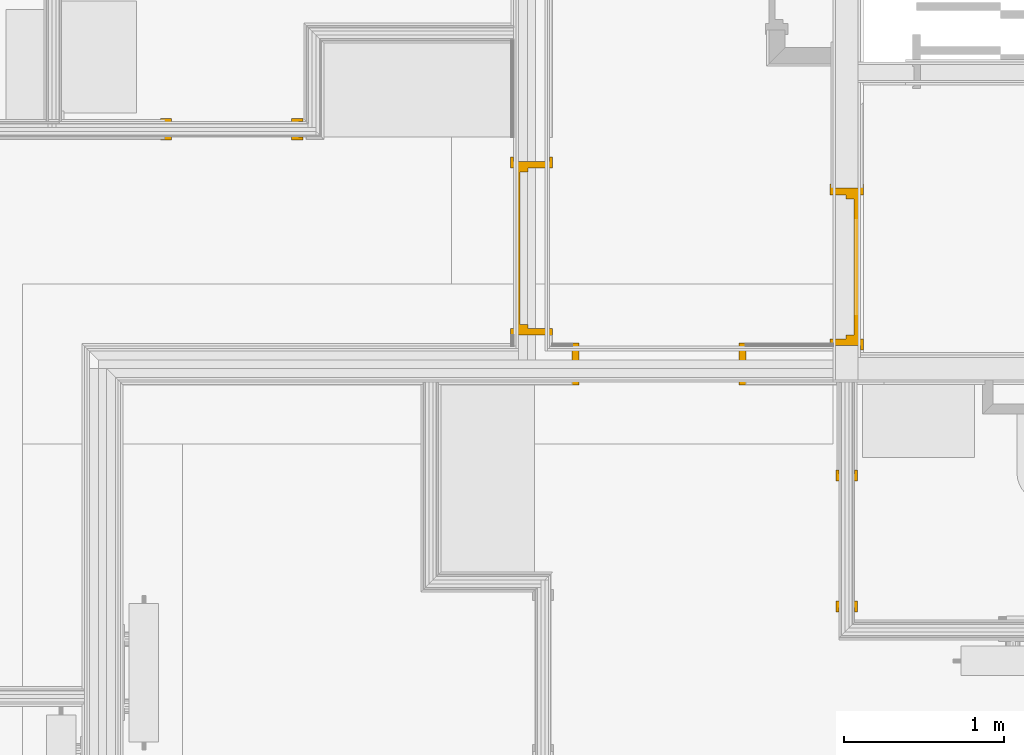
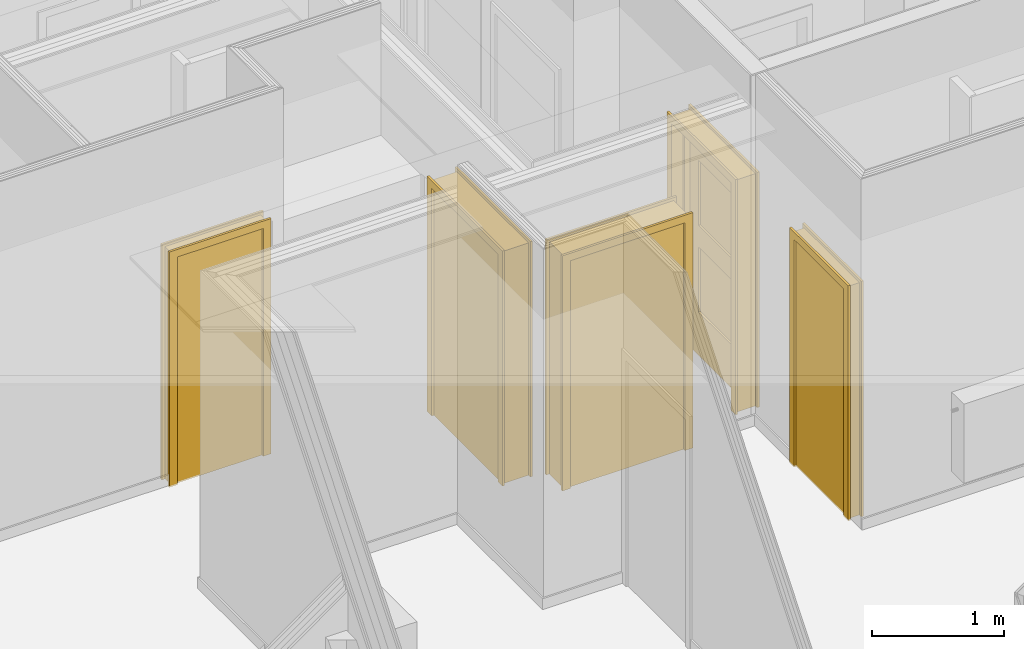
# One storey, part 52 of 64: 5 doors.
"""IFC2X3 building model written with IfcOpenShell, lengths in metres."""

import ifcopenshell
import ifcopenshell.guid

model = None  # the IFC model being written
_history = None  # IfcOwnerHistory: only IFC2X3 demands one
_inside = {}  # id of a spatial element -> (the spatial element, [elements in it])
_under = {}  # id of a project, library or spatial element -> (it, [spatial elements below it])
_declared = {}  # id of a project -> (the project, [libraries it declares])
_typed = {}  # id of a type object -> (the type object, [elements of that type])
_made_of = {}  # id of a material, layer set ... -> (it, [elements and type objects made of it])


def new_model(schema):
    """Start an empty IFC model of exactly this schema.

    Asked for "IFC4X3", IfcOpenShell would pick the latest addendum, in which some entities
    have other attributes; the version numbers below select the first issue.
    IFC2X3 requires an IfcOwnerHistory on every rooted entity: one is made here for all.
    """
    global model, _history
    if schema == "IFC4X3":
        model = ifcopenshell.file(schema_version=(4, 3, 0, 0))
    else:
        model = ifcopenshell.file(schema=schema)
    _inside.clear()
    _under.clear()
    _declared.clear()
    _typed.clear()
    _made_of.clear()
    _history = None
    if model.schema == "IFC2X3":
        org = make("IfcOrganization", Name="unknown")
        user = make(
            "IfcPersonAndOrganization",
            ThePerson=make("IfcPerson", FamilyName="unknown"),
            TheOrganization=org,
        )
        app = make(
            "IfcApplication",
            ApplicationDeveloper=org,
            Version="unknown",
            ApplicationFullName="unknown",
            ApplicationIdentifier="unknown",
        )
        _history = make(
            "IfcOwnerHistory",
            OwningUser=user,
            OwningApplication=app,
            ChangeAction="ADDED",
            CreationDate=0,
        )
    return model


def make(cls, **values):
    """One entity of the class cls with the attributes given. An attribute that is None is left unset."""
    return model.create_entity(
        cls, **{name: value for name, value in values.items() if value is not None}
    )


def entity(cls, *values):
    """Any entity or typed value of the class cls, its attributes in the order of the schema. None: left unset."""
    e = model.create_entity(cls)
    for i, value in enumerate(values):
        if value is not None:
            e[i] = value
    return e


def rooted(cls, **values):
    """An entity with a GlobalId (a new one), such as an element, a storey or a relation."""
    return make(cls, GlobalId=ifcopenshell.guid.new(), OwnerHistory=_history, **values)


def si_unit(unit_type, name, prefix=None):
    """IfcSIUnit, for example si_unit("LENGTHUNIT", "METRE", prefix="MILLI")."""
    return make("IfcSIUnit", UnitType=unit_type, Prefix=prefix, Name=name)


def converted_unit(unit_type, name, factor, base, dimensions=None, offset=None):
    """IfcConversionBasedUnit, such as the inch: factor (a typed value) times the base unit."""
    return make(
        "IfcConversionBasedUnit"
        if offset is None
        else "IfcConversionBasedUnitWithOffset",
        ConversionOffset=offset,
        Dimensions=None
        if dimensions is None
        else entity("IfcDimensionalExponents", *dimensions),
        UnitType=unit_type,
        Name=name,
        ConversionFactor=make(
            "IfcMeasureWithUnit", ValueComponent=factor, UnitComponent=base
        ),
    )


def derived_unit(unit_type, elements):
    """IfcDerivedUnit: a product of units, each with its exponent."""
    return make(
        "IfcDerivedUnit",
        Elements=[
            make("IfcDerivedUnitElement", Unit=unit, Exponent=power)
            for unit, power in elements
        ],
        UnitType=unit_type,
    )


def money_unit(currency):
    """IfcMonetaryUnit."""
    return make("IfcMonetaryUnit", Currency=currency)


def assignment(units):
    """IfcUnitAssignment: the units of a project."""
    return None if units is None else make("IfcUnitAssignment", Units=units)


def point(xyz):
    """IfcCartesianPoint."""
    return None if xyz is None else make("IfcCartesianPoint", Coordinates=xyz)


def direction(xyz):
    """IfcDirection."""
    return None if xyz is None else make("IfcDirection", DirectionRatios=xyz)


def frame(location, z_axis=None, x_axis=None):
    """IfcAxis2Placement3D, a coordinate frame: its origin and axes. An axis left out is left unset."""
    return make(
        "IfcAxis2Placement3D",
        Location=point(location),
        Axis=direction(z_axis),
        RefDirection=direction(x_axis),
    )


def origin_with_axes():
    """The frame at (0, 0, 0) with the z axis (0, 0, 1) and the x axis (1, 0, 0) written out."""
    return frame((0.0, 0.0, 0.0), z_axis=(0.0, 0.0, 1.0), x_axis=(1.0, 0.0, 0.0))


def place(relative_to, where):
    """IfcLocalPlacement: puts the frame where relative to a parent placement (None: the world)."""
    return make(
        "IfcLocalPlacement", PlacementRelTo=relative_to, RelativePlacement=where
    )


def context(
    kind, dimensions, precision=None, world=None, true_north=None, identifier=None
):
    """IfcGeometricRepresentationContext, for example the 3D "Model" context."""
    return make(
        "IfcGeometricRepresentationContext",
        ContextIdentifier=identifier,
        ContextType=kind,
        CoordinateSpaceDimension=dimensions,
        Precision=precision,
        WorldCoordinateSystem=world,
        TrueNorth=true_north,
    )


def subcontext(parent, identifier, kind, view, scale=None):
    """IfcGeometricRepresentationSubContext, for example "Body" below "Model"."""
    return make(
        "IfcGeometricRepresentationSubContext",
        ContextIdentifier=identifier,
        ContextType=kind,
        ParentContext=parent,
        TargetScale=scale,
        TargetView=view,
    )


def project(units=None, contexts=None):
    """IfcProject with its units and contexts."""
    return rooted(
        "IfcProject",
        Name="project",
        RepresentationContexts=contexts,
        UnitsInContext=assignment(units),
    )


def spatial(cls, under=None, at=None, **own):
    """A site, building, storey or space (cls), placed at a placement, below another one or the project."""
    s = rooted(cls, ObjectPlacement=at, **own)
    if under is not None:
        _under.setdefault(under.id(), (under, []))[1].append(s)
    return s


def faces_of(points, faces, orient=None, outer=None):
    """IfcFace entities. A face is a list of loops; a loop is a list of indices into points, from 0.

    orient and outer hold one flag for each loop. By default every Orientation is true, the
    first loop of a face is its IfcFaceOuterBound and the others are IfcFaceBound.
    """
    made = []
    for i, loops in enumerate(faces):
        bounds = []
        for j, loop in enumerate(loops):
            is_outer = j == 0 if outer is None else outer[i][j]
            bounds.append(
                make(
                    "IfcFaceOuterBound" if is_outer else "IfcFaceBound",
                    Bound=make("IfcPolyLoop", Polygon=[points[k] for k in loop]),
                    Orientation=True if orient is None else orient[i][j],
                )
            )
        made.append(make("IfcFace", Bounds=bounds))
    return made


def faceted_brep(points, faces, orient=None, outer=None, voids=None):
    """IfcFacetedBrep: a solid bounded by flat faces; with voids (closed shells), ...WithVoids."""
    shared = [point(p) for p in points]
    hull = make("IfcClosedShell", CfsFaces=faces_of(shared, faces, orient, outer))
    if voids is None:
        return make("IfcFacetedBrep", Outer=hull)
    return make(
        "IfcFacetedBrepWithVoids",
        Outer=hull,
        Voids=[
            make(cls, CfsFaces=faces_of(shared, fs, o, b)) for cls, fs, o, b in voids
        ],
    )


def shape(context_of_items, identifier, shape_type, items):
    """IfcShapeRepresentation: the items that make up one representation, for example the "Body"."""
    return make(
        "IfcShapeRepresentation",
        ContextOfItems=context_of_items,
        RepresentationIdentifier=identifier,
        RepresentationType=shape_type,
        Items=items,
    )


def material(Name=None, Category=None):
    """IfcMaterial."""
    return make("IfcMaterial", Name=Name, Category=Category)


def made_of(thing, what):
    """Note that an element or type object is made of a material, layer set ...; save() writes the relation."""
    if what is not None:
        _made_of.setdefault(what.id(), (what, []))[1].append(thing)
    return thing


def type_object(cls, material=None, **own):
    """A type object (cls), such as IfcWallType, which elements share."""
    return made_of(rooted(cls, **own), material)


def element(
    cls,
    number,
    at=None,
    inside=None,
    cuts=None,
    type_object=None,
    material=None,
    context=None,
    identifier="Body",
    shape_type=None,
    held_by="IfcProductDefinitionShape",
    body=None,
    shapes=None,
    **own,
):
    """One element of the class cls, such as IfcWall. Its Tag is "e" and its number.

    at: its placement. inside: the storey or other place that contains it. cuts: it is an
    opening in that element (IfcRelVoidsElement). A single representation is given by context,
    identifier, shape_type and body (its items); several are given by shapes. held_by: the class
    of the entity that holds the representations. save() writes the other relations.
    """
    e = rooted(cls, Tag="e%d" % number, ObjectPlacement=at, **own)
    if body is not None:
        shapes = [shape(context, identifier, shape_type, body)]
    if shapes is not None:
        e.Representation = make(held_by, Representations=shapes)
    if inside is not None:
        _inside.setdefault(inside.id(), (inside, []))[1].append(e)
    if cuts is not None:
        rooted(
            "IfcRelVoidsElement", RelatingBuildingElement=cuts, RelatedOpeningElement=e
        )
    if type_object is not None:
        _typed.setdefault(type_object.id(), (type_object, []))[1].append(e)
    return made_of(e, material)


def aggregate(whole, parts):
    """IfcRelAggregates: a whole, such as a stair, and the parts it consists of."""
    return rooted("IfcRelAggregates", RelatingObject=whole, RelatedObjects=parts)


def save(model, path):
    """Write the relations noted so far, then the file.

    IfcRelAggregates (storeys below a building ...), IfcRelContainedInSpatialStructure (elements
    in a storey), IfcRelDefinesByType, IfcRelAssociatesMaterial and IfcRelDeclares: one each for
    every whole, place, type object, material and project.
    """
    for whole, parts in _under.values():
        aggregate(whole, parts)
    for where, things in _inside.values():
        rooted(
            "IfcRelContainedInSpatialStructure",
            RelatedElements=things,
            RelatingStructure=where,
        )
    for kind, things in _typed.values():
        rooted("IfcRelDefinesByType", RelatedObjects=things, RelatingType=kind)
    for what, things in _made_of.values():
        rooted("IfcRelAssociatesMaterial", RelatedObjects=things, RelatingMaterial=what)
    for by, libraries in _declared.values():
        rooted("IfcRelDeclares", RelatingContext=by, RelatedDefinitions=libraries)
    model.write(path)


model = new_model("IFC2X3")

# Units and contexts
model_context = context("Model", 3, precision=1e-05, world=origin_with_axes(), true_north=direction((0.0, 1.0)))
body_context = subcontext(model_context, "Body", "Model", "MODEL_VIEW", scale=1.0)
ifc_project = project(units=[si_unit("LENGTHUNIT", "METRE"), si_unit("AREAUNIT", "SQUARE_METRE"), si_unit("VOLUMEUNIT", "CUBIC_METRE"), si_unit("ABSORBEDDOSEUNIT", "GRAY"), si_unit("AMOUNTOFSUBSTANCEUNIT", "MOLE"), si_unit("DOSEEQUIVALENTUNIT", "SIEVERT"), si_unit("ELECTRICCAPACITANCEUNIT", "FARAD"), si_unit("ELECTRICCHARGEUNIT", "COULOMB"), si_unit("ELECTRICCONDUCTANCEUNIT", "SIEMENS"), si_unit("ELECTRICCURRENTUNIT", "AMPERE"), si_unit("ELECTRICRESISTANCEUNIT", "OHM"), si_unit("ELECTRICVOLTAGEUNIT", "VOLT"), si_unit("ENERGYUNIT", "JOULE"), si_unit("FORCEUNIT", "NEWTON"), si_unit("FREQUENCYUNIT", "HERTZ"), si_unit("ILLUMINANCEUNIT", "LUX"), si_unit("INDUCTANCEUNIT", "HENRY"), si_unit("LUMINOUSFLUXUNIT", "LUMEN"), si_unit("LUMINOUSINTENSITYUNIT", "CANDELA"), si_unit("MAGNETICFLUXDENSITYUNIT", "TESLA"), si_unit("MAGNETICFLUXUNIT", "WEBER"), si_unit("MASSUNIT", "GRAM"), converted_unit("PLANEANGLEUNIT", "degree", entity("IfcReal", 0.0174532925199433), si_unit("PLANEANGLEUNIT", "RADIAN"), dimensions=[0, 0, 0, 0, 0, 0, 0]), si_unit("POWERUNIT", "WATT"), si_unit("PRESSUREUNIT", "PASCAL"), si_unit("RADIOACTIVITYUNIT", "BECQUEREL"), si_unit("SOLIDANGLEUNIT", "STERADIAN"), si_unit("THERMODYNAMICTEMPERATUREUNIT", "KELVIN"), si_unit("TIMEUNIT", "SECOND"), derived_unit("ACCELERATIONUNIT", [(si_unit("LENGTHUNIT", "METRE"), 1), (si_unit("TIMEUNIT", "SECOND"), -2)]), derived_unit("ANGULARVELOCITYUNIT", [(converted_unit("PLANEANGLEUNIT", "degree", entity("IfcReal", 0.0174532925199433), si_unit("PLANEANGLEUNIT", "RADIAN"), dimensions=[0, 0, 0, 0, 0, 0, 0]), 1), (si_unit("TIMEUNIT", "SECOND"), -1)]), derived_unit("CURVATUREUNIT", [(converted_unit("PLANEANGLEUNIT", "degree", entity("IfcReal", 0.0174532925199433), si_unit("PLANEANGLEUNIT", "RADIAN"), dimensions=[0, 0, 0, 0, 0, 0, 0]), 1), (si_unit("LENGTHUNIT", "METRE"), -1)]), derived_unit("DYNAMICVISCOSITYUNIT", [(si_unit("PRESSUREUNIT", "PASCAL"), 1), (si_unit("TIMEUNIT", "SECOND"), 1)]), derived_unit("HEATFLUXDENSITYUNIT", [(si_unit("POWERUNIT", "WATT"), 1), (si_unit("LENGTHUNIT", "METRE"), -2)]), derived_unit("HEATINGVALUEUNIT", [(si_unit("ENERGYUNIT", "JOULE"), 1), (si_unit("MASSUNIT", "GRAM"), -1)]), derived_unit("INTEGERCOUNTRATEUNIT", [(si_unit("TIMEUNIT", "SECOND"), -1)]), derived_unit("IONCONCENTRATIONUNIT", [(si_unit("MASSUNIT", "GRAM"), 1), (si_unit("VOLUMEUNIT", "CUBIC_METRE"), -1)]), derived_unit("ISOTHERMALMOISTURECAPACITYUNIT", [(si_unit("VOLUMEUNIT", "CUBIC_METRE"), 1), (si_unit("MASSUNIT", "GRAM"), -1)]), derived_unit("KINEMATICVISCOSITYUNIT", [(si_unit("AREAUNIT", "SQUARE_METRE"), 1), (si_unit("TIMEUNIT", "SECOND"), -1)]), derived_unit("LINEARFORCEUNIT", [(si_unit("FORCEUNIT", "NEWTON"), 1), (si_unit("LENGTHUNIT", "METRE"), -1)]), derived_unit("LINEARMOMENTUNIT", [(si_unit("FORCEUNIT", "NEWTON"), 1), (si_unit("LENGTHUNIT", "METRE"), -1)]), derived_unit("LINEARSTIFFNESSUNIT", [(si_unit("FORCEUNIT", "NEWTON"), 1), (si_unit("LENGTHUNIT", "METRE"), -1)]), derived_unit("LINEARVELOCITYUNIT", [(si_unit("LENGTHUNIT", "METRE"), 1), (si_unit("TIMEUNIT", "SECOND"), -1)]), derived_unit("LUMINOUSINTENSITYDISTRIBUTIONUNIT", [(si_unit("LUMINOUSINTENSITYUNIT", "CANDELA"), 1), (si_unit("LUMINOUSFLUXUNIT", "LUMEN"), -1)]), derived_unit("MASSDENSITYUNIT", [(si_unit("MASSUNIT", "GRAM"), 1), (si_unit("VOLUMEUNIT", "CUBIC_METRE"), -1)]), derived_unit("MASSFLOWRATEUNIT", [(si_unit("MASSUNIT", "GRAM"), 1), (si_unit("TIMEUNIT", "SECOND"), -1)]), derived_unit("MASSPERLENGTHUNIT", [(si_unit("MASSUNIT", "GRAM"), 1), (si_unit("LENGTHUNIT", "METRE"), -1)]), derived_unit("MODULUSOFELASTICITYUNIT", [(si_unit("FORCEUNIT", "NEWTON"), 1), (si_unit("AREAUNIT", "SQUARE_METRE"), -1)]), derived_unit("MODULUSOFLINEARSUBGRADEREACTIONUNIT", [(si_unit("FORCEUNIT", "NEWTON"), 1), (si_unit("LENGTHUNIT", "METRE"), -2)]), derived_unit("MODULUSOFROTATIONALSUBGRADEREACTIONUNIT", [(si_unit("FORCEUNIT", "NEWTON"), 1), (si_unit("LENGTHUNIT", "METRE"), 1)]), derived_unit("MODULUSOFSUBGRADEREACTIONUNIT", [(si_unit("FORCEUNIT", "NEWTON"), 1), (si_unit("VOLUMEUNIT", "CUBIC_METRE"), -1)]), derived_unit("MOISTUREDIFFUSIVITYUNIT", [(si_unit("VOLUMEUNIT", "CUBIC_METRE"), 1), (si_unit("TIMEUNIT", "SECOND"), -1)]), derived_unit("MOLECULARWEIGHTUNIT", [(si_unit("MASSUNIT", "GRAM"), 1), (si_unit("AMOUNTOFSUBSTANCEUNIT", "MOLE"), -1)]), derived_unit("PLANARFORCEUNIT", [(si_unit("FORCEUNIT", "NEWTON"), 1), (si_unit("LENGTHUNIT", "METRE"), -2)]), derived_unit("ROTATIONALFREQUENCYUNIT", [(si_unit("TIMEUNIT", "SECOND"), -1)]), derived_unit("ROTATIONALMASSUNIT", [(si_unit("MASSUNIT", "GRAM"), 1), (si_unit("LENGTHUNIT", "METRE"), 2)]), derived_unit("ROTATIONALSTIFFNESSUNIT", [(si_unit("FORCEUNIT", "NEWTON"), 1), (si_unit("LENGTHUNIT", "METRE"), 1), (converted_unit("PLANEANGLEUNIT", "degree", entity("IfcReal", 0.0174532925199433), si_unit("PLANEANGLEUNIT", "RADIAN"), dimensions=[0, 0, 0, 0, 0, 0, 0]), -1)]), derived_unit("SECTIONAREAINTEGRALUNIT", [(si_unit("LENGTHUNIT", "METRE"), 5)]), derived_unit("SECTIONMODULUSUNIT", [(si_unit("LENGTHUNIT", "METRE"), 3)]), derived_unit("SHEARMODULUSUNIT", [(si_unit("FORCEUNIT", "NEWTON"), 1), (si_unit("AREAUNIT", "SQUARE_METRE"), -1)]), derived_unit("SOUNDPOWERUNIT", [(si_unit("ENERGYUNIT", "JOULE"), 1), (si_unit("TIMEUNIT", "SECOND"), -1)]), derived_unit("SPECIFICHEATCAPACITYUNIT", [(si_unit("FORCEUNIT", "NEWTON"), 1), (si_unit("MASSUNIT", "GRAM"), -1), (si_unit("THERMODYNAMICTEMPERATUREUNIT", "KELVIN"), -1)]), derived_unit("TEMPERATUREGRADIENTUNIT", [(si_unit("THERMODYNAMICTEMPERATUREUNIT", "KELVIN"), 1), (si_unit("LENGTHUNIT", "METRE"), -1)]), derived_unit("THERMALADMITTANCEUNIT", [(si_unit("POWERUNIT", "WATT"), 1), (si_unit("AREAUNIT", "SQUARE_METRE"), -1), (si_unit("THERMODYNAMICTEMPERATUREUNIT", "KELVIN"), -1)]), derived_unit("THERMALCONDUCTANCEUNIT", [(si_unit("POWERUNIT", "WATT"), 1), (si_unit("LENGTHUNIT", "METRE"), -1), (si_unit("THERMODYNAMICTEMPERATUREUNIT", "KELVIN"), -1)]), derived_unit("THERMALEXPANSIONCOEFFICIENTUNIT", [(si_unit("THERMODYNAMICTEMPERATUREUNIT", "KELVIN"), -1)]), derived_unit("THERMALRESISTANCEUNIT", [(si_unit("AREAUNIT", "SQUARE_METRE"), 1), (si_unit("POWERUNIT", "WATT"), -1)]), derived_unit("THERMALTRANSMITTANCEUNIT", [(si_unit("POWERUNIT", "WATT"), 1), (si_unit("AREAUNIT", "SQUARE_METRE"), -1), (si_unit("THERMODYNAMICTEMPERATUREUNIT", "KELVIN"), -1)]), derived_unit("TORQUEUNIT", [(si_unit("FORCEUNIT", "NEWTON"), 1), (si_unit("LENGTHUNIT", "METRE"), 1)]), derived_unit("VAPORPERMEABILITYUNIT", [(si_unit("MASSUNIT", "GRAM"), 1), (si_unit("TIMEUNIT", "SECOND"), -1)]), derived_unit("VOLUMETRICFLOWRATEUNIT", [(si_unit("VOLUMEUNIT", "CUBIC_METRE"), 1), (si_unit("TIMEUNIT", "SECOND"), -1)]), derived_unit("WARPINGCONSTANTUNIT", [(si_unit("LENGTHUNIT", "METRE"), 6)]), derived_unit("WARPINGMOMENTUNIT", [(si_unit("FORCEUNIT", "NEWTON"), 1), (si_unit("LENGTHUNIT", "METRE"), 2)]), money_unit("GBP")], contexts=[model_context])

# Site, building, storey, space
site_placement = place(None, origin_with_axes())
site = spatial("IfcSite", under=ifc_project, at=site_placement, Name="Site", CompositionType="ELEMENT")
building_placement = place(site_placement, origin_with_axes())
building = spatial("IfcBuilding", under=site, at=building_placement, Name="Building01", CompositionType="ELEMENT")
storey_placement = place(building_placement, frame((0.0, 0.0, 8.64), z_axis=(0.0, 0.0, 1.0), x_axis=(1.0, 0.0, 0.0)))
storey = spatial("IfcBuildingStorey", under=building, at=storey_placement, Name="2F", CompositionType="ELEMENT", Elevation=8.64)
space_1_placement = place(storey_placement, frame((6.595, 4.98, 0.017975), z_axis=(0.0, 0.0, 1.0), x_axis=(0.0, -1.0, 0.0)))
space_1 = spatial("IfcSpace", under=storey, at=space_1_placement, Name="k/d/l", CompositionType="ELEMENT", InteriorOrExteriorSpace="NOTDEFINED")

# Door
ifc_material = material(Name="A_BSUK_Doors")
door_style_1 = type_object("IfcDoorStyle", Name="A-Doors-SingleFlush", ConstructionType="USERDEFINED", OperationType="SINGLE_SWING_RIGHT", ParameterTakesPrecedence=False, Sizeable=False)
door_1_placement = place(storey_placement, frame((8.4725, 4.98, 0.004), z_axis=(0.0, 0.0, 1.0), x_axis=(-1.0, 0.0, 0.0)))
element("IfcDoor", 1, at=door_1_placement, inside=space_1, type_object=door_style_1, material=ifc_material, Name="2.27", ObjectType="A-Doors-SingleFlush", OverallHeight=2.16900000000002, OverallWidth=1.13800000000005, context=body_context, shape_type="Brep", body=[
    faceted_brep([(1.0, -0.244, 0.0), (1.069, -0.244, 0.0), (1.069, -0.244, 2.169), (-0.069, -0.244, 2.169), (-0.069, -0.244, 0.0), (0.0, -0.244, 0.0), (0.0, -0.244, 2.1), (1.0, -0.244, 2.1), (-0.069, -0.225, 0.0), (-0.069, -0.225, 2.169), (1.069, -0.225, 2.169), (1.069, -0.225, 0.0), (1.0, 0.019, 0.0), (1.069, 0.019, 0.0), (1.069, 0.0, 0.0), (1.042, 0.0, 0.0), (1.042, -0.225, 0.0), (1.0, 0.019, 2.1), (0.0, 0.019, 2.1), (0.0, 0.019, 0.0), (-0.069, 0.019, 0.0), (-0.069, 0.019, 2.169), (1.069, 0.019, 2.169), (1.069, 0.0, 2.169), (1.042, -0.225, 2.142), (1.042, 0.0, 2.142), (-0.042, -0.225, 2.142), (-0.042, 0.0, 2.142), (-0.042, -0.225, 0.0), (-0.042, 0.0, 0.0), (-0.069, 0.0, 2.169), (-0.069, 0.0, 0.0)], [[[0, 1, 2, 3, 4, 5, 6, 7]], [[8, 4, 3, 9]], [[10, 2, 1, 11]], [[9, 3, 2, 10]], [[12, 13, 14, 15, 16, 11, 1, 0]], [[7, 17, 12, 0]], [[6, 18, 17, 7]], [[18, 19, 20, 21, 22, 13, 12, 17]], [[5, 19, 18, 6]], [[13, 22, 23, 14]], [[24, 16, 15, 25]], [[26, 24, 25, 27]], [[11, 16, 24, 26, 28, 8, 9, 10]], [[27, 29, 28, 26]], [[25, 15, 14, 23, 30, 31, 29, 27]], [[5, 4, 8, 28, 29, 31, 20, 19]], [[30, 21, 20, 31]], [[23, 22, 21, 30]]]),
    faceted_brep([(0.0, -0.09, 2.1), (0.0, -0.04, 2.1), (0.0, -0.04, 0.0), (0.0, -0.09, 0.0), (0.975, -0.09, 0.0), (1.0, -0.09, 0.0), (1.0, -0.09, 2.1), (0.025, -0.09, 0.0), (0.025, -0.09, 2.075), (0.975, -0.09, 2.075), (0.975, -0.04, 0.0), (1.0, -0.04, 0.0), (1.0, -0.04, 2.1), (0.025, -0.04, 2.075), (0.025, -0.04, 0.0), (0.975, -0.04, 2.075)], [[[0, 1, 2, 3]], [[4, 5, 6, 0, 3, 7, 8, 9]], [[10, 11, 5, 4]], [[6, 12, 1, 0]], [[5, 11, 12, 6]], [[13, 14, 2, 1, 12, 11, 10, 15]], [[7, 14, 13, 8]], [[7, 3, 2, 14]], [[9, 15, 10, 4]], [[8, 13, 15, 9]]]),
    faceted_brep([(1.0, -0.04, 0.0), (1.0, 0.0, 0.0), (1.0, 0.0, 2.1), (1.0, -0.04, 2.1), (0.0, -0.04, 2.1), (0.0, 0.0, 2.1), (0.0, 0.0, 0.0), (0.0, -0.04, 0.0)], [[[0, 1, 2, 3]], [[4, 5, 6, 7]], [[7, 6, 1, 0]], [[3, 4, 7, 0]], [[3, 2, 5, 4]], [[1, 6, 5, 2]]]),
])

# Space
space_2_placement = place(storey_placement, frame((0.318, 8.21067, 0.017975), z_axis=(0.0, 0.0, 1.0), x_axis=(0.0, -1.0, 0.0)))
space_2 = spatial("IfcSpace", under=storey, at=space_2_placement, Name="13", CompositionType="ELEMENT", InteriorOrExteriorSpace="NOTDEFINED")

# Doors
door_style_2 = type_object("IfcDoorStyle", Name="A-Doors-SingleFlush", ConstructionType="USERDEFINED", OperationType="SINGLE_SWING_LEFT", ParameterTakesPrecedence=False, Sizeable=False)
door_2_placement = place(storey_placement, frame((7.064669, 5.316475, 0.0), z_axis=(0.0, 0.0, 1.0), x_axis=(0.0, 1.0, 0.0)))
element("IfcDoor", 2, at=door_2_placement, inside=space_2, type_object=door_style_2, material=ifc_material, Name="2.17", ObjectType="A-Doors-SingleFlush", OverallHeight=2.16900000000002, OverallWidth=1.13800000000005, context=body_context, shape_type="Brep", body=[
    faceted_brep([(0.0, -0.244, 2.1), (1.0, -0.244, 2.1), (1.0, -0.244, 0.0), (1.069, -0.244, 0.0), (1.069, -0.244, 2.169), (-0.069, -0.244, 2.169), (-0.069, -0.244, 0.0), (0.0, -0.244, 0.0), (1.069, -0.225, 2.169), (1.069, -0.225, 0.0), (-0.069, -0.225, 0.0), (-0.069, -0.225, 2.169), (-0.042, -0.225, 0.0), (-0.042, 0.0, 0.0), (-0.069, 0.0, 0.0), (-0.069, 0.019, 0.0), (0.0, 0.019, 0.0), (0.0, 0.019, 2.1), (1.0, 0.019, 2.1), (-0.069, 0.019, 2.169), (1.069, 0.019, 2.169), (1.069, 0.019, 0.0), (1.0, 0.019, 0.0), (-0.069, 0.0, 2.169), (-0.042, 0.0, 2.142), (-0.042, -0.225, 2.142), (1.042, 0.0, 2.142), (1.042, -0.225, 2.142), (1.042, -0.225, 0.0), (1.042, 0.0, 0.0), (1.069, 0.0, 0.0), (1.069, 0.0, 2.169)], [[[0, 1, 2, 3, 4, 5, 6, 7]], [[8, 4, 3, 9]], [[10, 6, 5, 11]], [[11, 5, 4, 8]], [[7, 6, 10, 12, 13, 14, 15, 16]], [[7, 16, 17, 0]], [[0, 17, 18, 1]], [[17, 16, 15, 19, 20, 21, 22, 18]], [[1, 18, 22, 2]], [[14, 23, 19, 15]], [[24, 13, 12, 25]], [[26, 24, 25, 27]], [[11, 8, 9, 28, 27, 25, 12, 10]], [[27, 28, 29, 26]], [[26, 29, 30, 31, 23, 14, 13, 24]], [[22, 21, 30, 29, 28, 9, 3, 2]], [[30, 21, 20, 31]], [[31, 20, 19, 23]]]),
    faceted_brep([(1.0, -0.09, 0.0), (1.0, -0.04, 0.0), (1.0, -0.04, 2.1), (1.0, -0.09, 2.1), (0.025, -0.09, 2.075), (0.975, -0.09, 2.075), (0.975, -0.09, 0.0), (0.0, -0.09, 2.1), (0.0, -0.09, 0.0), (0.025, -0.09, 0.0), (0.0, -0.04, 0.0), (0.025, -0.04, 0.0), (0.0, -0.04, 2.1), (0.025, -0.04, 2.075), (0.975, -0.04, 0.0), (0.975, -0.04, 2.075)], [[[0, 1, 2, 3]], [[4, 5, 6, 0, 3, 7, 8, 9]], [[9, 8, 10, 11]], [[3, 2, 12, 7]], [[7, 12, 10, 8]], [[13, 11, 10, 12, 2, 1, 14, 15]], [[5, 15, 14, 6]], [[14, 1, 0, 6]], [[9, 11, 13, 4]], [[4, 13, 15, 5]]]),
    faceted_brep([(0.0, -0.04, 2.1), (0.0, 0.0, 2.1), (0.0, 0.0, 0.0), (0.0, -0.04, 0.0), (1.0, -0.04, 0.0), (1.0, 0.0, 0.0), (1.0, 0.0, 2.1), (1.0, -0.04, 2.1)], [[[0, 1, 2, 3]], [[4, 5, 6, 7]], [[3, 2, 5, 4]], [[3, 4, 7, 0]], [[7, 6, 1, 0]], [[1, 6, 5, 2]]]),
])
door_style_3 = type_object("IfcDoorStyle", Name="A-Doors-SingleFlush", ConstructionType="USERDEFINED", OperationType="SINGLE_SWING_LEFT", ParameterTakesPrecedence=False, Sizeable=False)
door_3_placement = place(storey_placement, frame((5.679088, 6.511475, 0.0), z_axis=(0.0, 0.0, 1.0), x_axis=(-1.0, 0.0, 0.0)))
element("IfcDoor", 3, at=door_3_placement, inside=space_2, type_object=door_style_3, material=ifc_material, Name="2.18", ObjectType="A-Doors-SingleFlush", OverallHeight=2.16900000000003, OverallWidth=0.888000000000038, context=body_context, shape_type="Brep", body=[
    faceted_brep([(0.0, -0.114, 2.1), (0.75, -0.114, 2.1), (0.75, -0.114, 0.0), (0.819, -0.114, 0.0), (0.819, -0.114, 2.169), (-0.069, -0.114, 2.169), (-0.069, -0.114, 0.0), (0.0, -0.114, 0.0), (0.819, -0.095, 2.169), (0.819, -0.095, 0.0), (-0.069, -0.095, 0.0), (-0.069, -0.095, 2.169), (-0.042, -0.095, 0.0), (-0.042, 0.0, 0.0), (-0.069, 0.0, 0.0), (-0.069, 0.019, 0.0), (0.0, 0.019, 0.0), (0.0, 0.019, 2.1), (0.75, 0.019, 2.1), (-0.069, 0.019, 2.169), (0.819, 0.019, 2.169), (0.819, 0.019, 0.0), (0.75, 0.019, 0.0), (-0.069, 0.0, 2.169), (-0.042, 0.0, 2.142), (-0.042, -0.095, 2.142), (0.792, 0.0, 2.142), (0.792, -0.095, 2.142), (0.792, -0.095, 0.0), (0.792, 0.0, 0.0), (0.819, 0.0, 0.0), (0.819, 0.0, 2.169)], [[[0, 1, 2, 3, 4, 5, 6, 7]], [[8, 4, 3, 9]], [[10, 6, 5, 11]], [[11, 5, 4, 8]], [[7, 6, 10, 12, 13, 14, 15, 16]], [[7, 16, 17, 0]], [[0, 17, 18, 1]], [[17, 16, 15, 19, 20, 21, 22, 18]], [[1, 18, 22, 2]], [[14, 23, 19, 15]], [[24, 13, 12, 25]], [[26, 24, 25, 27]], [[11, 8, 9, 28, 27, 25, 12, 10]], [[27, 28, 29, 26]], [[26, 29, 30, 31, 23, 14, 13, 24]], [[22, 21, 30, 29, 28, 9, 3, 2]], [[30, 21, 20, 31]], [[31, 20, 19, 23]]]),
    faceted_brep([(0.75, -0.09, 0.0), (0.75, -0.04, 0.0), (0.75, -0.04, 2.1), (0.75, -0.09, 2.1), (0.025, -0.09, 2.075), (0.725, -0.09, 2.075), (0.725, -0.09, 0.0), (0.0, -0.09, 2.1), (0.0, -0.09, 0.0), (0.025, -0.09, 0.0), (0.0, -0.04, 0.0), (0.025, -0.04, 0.0), (0.0, -0.04, 2.1), (0.025, -0.04, 2.075), (0.725, -0.04, 0.0), (0.725, -0.04, 2.075)], [[[0, 1, 2, 3]], [[4, 5, 6, 0, 3, 7, 8, 9]], [[9, 8, 10, 11]], [[3, 2, 12, 7]], [[7, 12, 10, 8]], [[13, 11, 10, 12, 2, 1, 14, 15]], [[5, 15, 14, 6]], [[14, 1, 0, 6]], [[9, 11, 13, 4]], [[4, 13, 15, 5]]]),
    faceted_brep([(0.0, -0.04, 2.1), (0.0, 0.0, 2.1), (0.0, 0.0, 0.0), (0.0, -0.04, 0.0), (0.75, -0.04, 0.0), (0.75, 0.0, 0.0), (0.75, 0.0, 2.1), (0.75, -0.04, 2.1)], [[[0, 1, 2, 3]], [[4, 5, 6, 7]], [[3, 2, 5, 4]], [[3, 4, 7, 0]], [[7, 6, 1, 0]], [[1, 6, 5, 2]]]),
])

# Space
space_3_placement = place(storey_placement, frame((12.15, 4.98, 0.017975), z_axis=(0.0, 0.0, 1.0), x_axis=(-1.0, 0.0, 0.0)))
space_3 = spatial("IfcSpace", under=storey, at=space_3_placement, Name="12", CompositionType="ELEMENT", InteriorOrExteriorSpace="NOTDEFINED")

# Door
door_4_placement = place(storey_placement, frame((9.097536, 3.613781, 0.0), z_axis=(0.0, 0.0, 1.0), x_axis=(0.0, 1.0, 0.0)))
element("IfcDoor", 4, at=door_4_placement, inside=space_3, type_object=door_style_3, material=ifc_material, Name="2.15", ObjectType="A-Doors-SingleFlush", OverallHeight=2.16900000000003, OverallWidth=0.888000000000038, context=body_context, shape_type="Brep", body=[
    faceted_brep([(0.0, -0.114, 2.1), (0.75, -0.114, 2.1), (0.75, -0.114, 0.0), (0.819, -0.114, 0.0), (0.819, -0.114, 2.169), (-0.069, -0.114, 2.169), (-0.069, -0.114, 0.0), (0.0, -0.114, 0.0), (0.819, -0.095, 2.169), (0.819, -0.095, 0.0), (-0.069, -0.095, 0.0), (-0.069, -0.095, 2.169), (-0.042, -0.095, 0.0), (-0.042, 0.0, 0.0), (-0.069, 0.0, 0.0), (-0.069, 0.019, 0.0), (0.0, 0.019, 0.0), (0.0, 0.019, 2.1), (0.75, 0.019, 2.1), (-0.069, 0.019, 2.169), (0.819, 0.019, 2.169), (0.819, 0.019, 0.0), (0.75, 0.019, 0.0), (-0.069, 0.0, 2.169), (-0.042, 0.0, 2.142), (-0.042, -0.095, 2.142), (0.792, 0.0, 2.142), (0.792, -0.095, 2.142), (0.792, -0.095, 0.0), (0.792, 0.0, 0.0), (0.819, 0.0, 0.0), (0.819, 0.0, 2.169)], [[[0, 1, 2, 3, 4, 5, 6, 7]], [[8, 4, 3, 9]], [[10, 6, 5, 11]], [[11, 5, 4, 8]], [[7, 6, 10, 12, 13, 14, 15, 16]], [[7, 16, 17, 0]], [[0, 17, 18, 1]], [[17, 16, 15, 19, 20, 21, 22, 18]], [[1, 18, 22, 2]], [[14, 23, 19, 15]], [[24, 13, 12, 25]], [[26, 24, 25, 27]], [[11, 8, 9, 28, 27, 25, 12, 10]], [[27, 28, 29, 26]], [[26, 29, 30, 31, 23, 14, 13, 24]], [[22, 21, 30, 29, 28, 9, 3, 2]], [[30, 21, 20, 31]], [[31, 20, 19, 23]]]),
    faceted_brep([(0.75, -0.09, 0.0), (0.75, -0.04, 0.0), (0.75, -0.04, 2.1), (0.75, -0.09, 2.1), (0.025, -0.09, 2.075), (0.725, -0.09, 2.075), (0.725, -0.09, 0.0), (0.0, -0.09, 2.1), (0.0, -0.09, 0.0), (0.025, -0.09, 0.0), (0.0, -0.04, 0.0), (0.025, -0.04, 0.0), (0.0, -0.04, 2.1), (0.025, -0.04, 2.075), (0.725, -0.04, 0.0), (0.725, -0.04, 2.075)], [[[0, 1, 2, 3]], [[4, 5, 6, 0, 3, 7, 8, 9]], [[9, 8, 10, 11]], [[3, 2, 12, 7]], [[7, 12, 10, 8]], [[13, 11, 10, 12, 2, 1, 14, 15]], [[5, 15, 14, 6]], [[14, 1, 0, 6]], [[9, 11, 13, 4]], [[4, 13, 15, 5]]]),
    faceted_brep([(0.0, -0.04, 2.1), (0.0, 0.0, 2.1), (0.0, 0.0, 0.0), (0.0, -0.04, 0.0), (0.75, -0.04, 0.0), (0.75, 0.0, 0.0), (0.75, 0.0, 2.1), (0.75, -0.04, 2.1)], [[[0, 1, 2, 3]], [[4, 5, 6, 7]], [[3, 2, 5, 4]], [[3, 4, 7, 0]], [[7, 6, 1, 0]], [[1, 6, 5, 2]]]),
])

# Space
space_4_placement = place(storey_placement, frame((9.227386, 6.85, 0.017932), z_axis=(0.0, 0.0, 1.0), x_axis=(0.0, -1.0, 0.0)))
space_4 = spatial("IfcSpace", under=storey, at=space_4_placement, Name="hall (vented)", CompositionType="ELEMENT", InteriorOrExteriorSpace="NOTDEFINED")

# Door
door_style_4 = type_object("IfcDoorStyle", Name="A-Doors-SingleVisionPanels", ConstructionType="USERDEFINED", OperationType="SINGLE_SWING_RIGHT", ParameterTakesPrecedence=False, Sizeable=False)
door_5_placement = place(storey_placement, frame((9.23, 6.15, 0.0), z_axis=(0.0, 0.0, 1.0), x_axis=(0.0, -1.0, 0.0)))
element("IfcDoor", 5, at=door_5_placement, inside=space_4, type_object=door_style_4, material=ifc_material, Name="2.01", ObjectType="A-Doors-SingleVisionPanels", OverallHeight=2.16900000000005, OverallWidth=1.03800000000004, context=body_context, shape_type="Brep", body=[
    faceted_brep([(0.9, -0.189, 0.0), (0.969, -0.189, 0.0), (0.969, -0.189, 2.169), (-0.069, -0.189, 2.169), (-0.069, -0.189, 0.0), (0.0, -0.189, 0.0), (0.0, -0.189, 2.1), (0.9, -0.189, 2.1), (-0.069, -0.17, 0.0), (-0.069, -0.17, 2.169), (0.969, -0.17, 2.169), (0.969, -0.17, 0.0), (0.9, 0.019, 0.0), (0.969, 0.019, 0.0), (0.969, 0.0, 0.0), (0.942, 0.0, 0.0), (0.942, -0.17, 0.0), (0.9, 0.019, 2.1), (0.0, 0.019, 2.1), (0.0, 0.019, 0.0), (-0.069, 0.019, 0.0), (-0.069, 0.019, 2.169), (0.969, 0.019, 2.169), (0.969, 0.0, 2.169), (0.942, -0.17, 2.142), (0.942, 0.0, 2.142), (-0.042, -0.17, 2.142), (-0.042, 0.0, 2.142), (-0.042, -0.17, 0.0), (-0.042, 0.0, 0.0), (-0.069, 0.0, 2.169), (-0.069, 0.0, 0.0)], [[[0, 1, 2, 3, 4, 5, 6, 7]], [[8, 4, 3, 9]], [[10, 2, 1, 11]], [[9, 3, 2, 10]], [[12, 13, 14, 15, 16, 11, 1, 0]], [[7, 17, 12, 0]], [[6, 18, 17, 7]], [[18, 19, 20, 21, 22, 13, 12, 17]], [[5, 19, 18, 6]], [[13, 22, 23, 14]], [[24, 16, 15, 25]], [[26, 24, 25, 27]], [[11, 16, 24, 26, 28, 8, 9, 10]], [[27, 29, 28, 26]], [[25, 15, 14, 23, 30, 31, 29, 27]], [[5, 4, 8, 28, 29, 31, 20, 19]], [[30, 21, 20, 31]], [[23, 22, 21, 30]]]),
    faceted_brep([(0.0, -0.09, 2.1), (0.0, -0.04, 2.1), (0.0, -0.04, 0.0), (0.0, -0.09, 0.0), (0.875, -0.09, 0.0), (0.9, -0.09, 0.0), (0.9, -0.09, 2.1), (0.025, -0.09, 0.0), (0.025, -0.09, 2.075), (0.875, -0.09, 2.075), (0.875, -0.04, 0.0), (0.9, -0.04, 0.0), (0.9, -0.04, 2.1), (0.025, -0.04, 2.075), (0.025, -0.04, 0.0), (0.875, -0.04, 2.075)], [[[0, 1, 2, 3]], [[4, 5, 6, 0, 3, 7, 8, 9]], [[10, 11, 5, 4]], [[6, 12, 1, 0]], [[5, 11, 12, 6]], [[13, 14, 2, 1, 12, 11, 10, 15]], [[7, 14, 13, 8]], [[7, 3, 2, 14]], [[9, 15, 10, 4]], [[8, 13, 15, 9]]]),
    faceted_brep([(0.75, -0.017, 1.0), (0.75, -0.023, 1.0), (0.75, -0.023, 0.4), (0.75, -0.017, 0.4), (0.15, -0.017, 0.4), (0.15, -0.023, 0.4), (0.15, -0.023, 1.0), (0.15, -0.017, 1.0)], [[[0, 1, 2, 3]], [[4, 5, 6, 7]], [[7, 6, 1, 0]], [[3, 4, 7, 0]], [[3, 2, 5, 4]], [[1, 6, 5, 2]]]),
    faceted_brep([(0.75, -0.017, 1.8), (0.75, -0.023, 1.8), (0.75, -0.023, 1.2), (0.75, -0.017, 1.2), (0.15, -0.017, 1.2), (0.15, -0.023, 1.2), (0.15, -0.023, 1.8), (0.15, -0.017, 1.8)], [[[0, 1, 2, 3]], [[4, 5, 6, 7]], [[7, 6, 1, 0]], [[3, 4, 7, 0]], [[3, 2, 5, 4]], [[1, 6, 5, 2]]]),
    faceted_brep([(0.15, -0.04, 1.8), (0.15, 0.0, 1.8), (0.75, 0.0, 1.8), (0.75, -0.04, 1.8), (0.15, -0.04, 0.4), (0.15, 0.0, 0.4), (0.15, 0.0, 1.0), (0.15, -0.04, 1.0), (0.75, -0.04, 0.4), (0.75, 0.0, 0.4), (0.75, -0.04, 1.0), (0.75, 0.0, 1.0), (0.0, 0.0, 2.1), (0.9, 0.0, 2.1), (0.9, 0.0, 0.0), (0.0, 0.0, 0.0), (0.15, 0.0, 1.2), (0.75, 0.0, 1.2), (0.0, -0.04, 2.1), (0.0, -0.04, 0.0), (0.9, -0.04, 2.1), (0.9, -0.04, 0.0), (0.15, -0.04, 1.2), (0.75, -0.04, 1.2)], [[[0, 1, 2, 3]], [[4, 5, 6, 7]], [[8, 9, 5, 4]], [[10, 11, 9, 8]], [[7, 6, 11, 10]], [[12, 13, 14, 15], [5, 9, 11, 6], [16, 17, 2, 1]], [[18, 12, 15, 19]], [[20, 13, 12, 18]], [[21, 14, 13, 20]], [[19, 15, 14, 21]], [[22, 16, 1, 0]], [[23, 17, 16, 22]], [[3, 2, 17, 23]], [[19, 21, 20, 18], [4, 7, 10, 8], [22, 0, 3, 23]]]),
])

save(model, "model.ifc")
